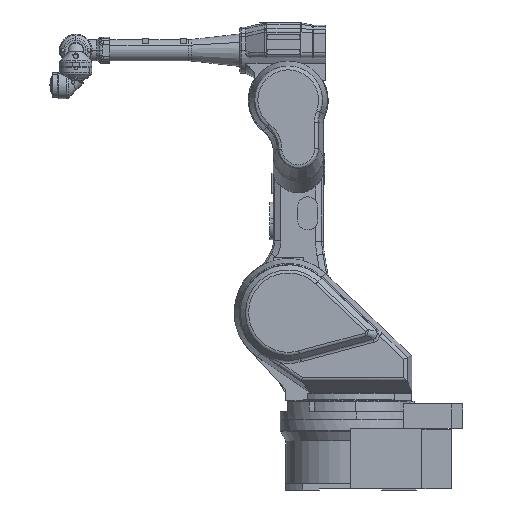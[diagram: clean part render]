
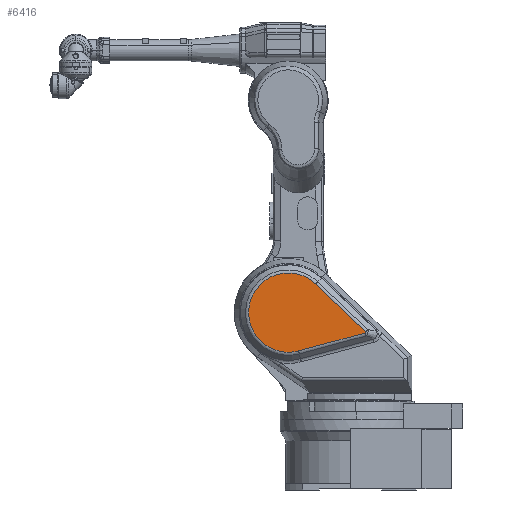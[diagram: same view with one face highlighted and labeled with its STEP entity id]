
A CAD part, left-side view. The second image highlights one B-rep face of the part: STEP entity #6416.
In plain terms, the highlighted planar face has unit normal (-1, 0, 0).
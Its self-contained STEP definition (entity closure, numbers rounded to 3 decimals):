
#6316=CARTESIAN_POINT('Vertex',(-307.,-59.814,-76.285)) ;
#6332=CARTESIAN_POINT('Vertex',(-307.,140.652,114.748)) ;
#6335=CARTESIAN_POINT('Line Origine',(-307.,40.419,19.231)) ;
#6363=CARTESIAN_POINT('Vertex',(-307.,208.997,-153.111)) ;
#6366=CARTESIAN_POINT('Axis2P3D Location',(-307.,250.,0.)) ;
#6378=CARTESIAN_POINT('Axis2P3D Location',(-307.,250.,0.)) ;
#6383=CARTESIAN_POINT('Line Origine',(-307.,75.254,-117.294)) ;
#6387=CARTESIAN_POINT('Vertex',(-307.,-58.489,-81.478)) ;
#6391=CARTESIAN_POINT('Control Point',(-307.,-58.489,-81.478)) ;
#6392=CARTESIAN_POINT('Control Point',(-307.,-58.83,-81.386)) ;
#6393=CARTESIAN_POINT('Control Point',(-307.,-59.154,-81.277)) ;
#6394=CARTESIAN_POINT('Control Point',(-307.,-59.456,-81.15)) ;
#6395=CARTESIAN_POINT('Control Point',(-307.,-60.002,-80.864)) ;
#6396=CARTESIAN_POINT('Control Point',(-307.,-60.441,-80.513)) ;
#6397=CARTESIAN_POINT('Control Point',(-307.,-60.628,-80.325)) ;
#6398=CARTESIAN_POINT('Control Point',(-307.,-60.937,-79.926)) ;
#6399=CARTESIAN_POINT('Control Point',(-307.,-61.117,-79.48)) ;
#6400=CARTESIAN_POINT('Control Point',(-307.,-61.173,-79.25)) ;
#6401=CARTESIAN_POINT('Control Point',(-307.,-61.217,-78.773)) ;
#6402=CARTESIAN_POINT('Control Point',(-307.,-61.127,-78.276)) ;
#6403=CARTESIAN_POINT('Control Point',(-307.,-61.049,-78.024)) ;
#6404=CARTESIAN_POINT('Control Point',(-307.,-60.828,-77.516)) ;
#6405=CARTESIAN_POINT('Control Point',(-307.,-60.487,-77.014)) ;
#6406=CARTESIAN_POINT('Control Point',(-307.,-60.288,-76.765)) ;
#6407=CARTESIAN_POINT('Control Point',(-307.,-60.062,-76.522)) ;
#6408=CARTESIAN_POINT('Control Point',(-307.,-59.814,-76.285)) ;
#6336=DIRECTION('Vector Direction',(0.,-0.724,-0.69)) ;
#6367=DIRECTION('Axis2P3D Direction',(-1.,0.,0.)) ;
#6379=DIRECTION('Axis2P3D Direction',(-1.,0.,0.)) ;
#6380=DIRECTION('Axis2P3D XDirection',(0.,-1.,0.)) ;
#6384=DIRECTION('Vector Direction',(0.,0.966,-0.259)) ;
#6368=AXIS2_PLACEMENT_3D('Circle Axis2P3D',#6366,#6367,$) ;
#6381=AXIS2_PLACEMENT_3D('Plane Axis2P3D',#6378,#6379,#6380) ;
#6411=ORIENTED_EDGE('',*,*,#6389,.T.) ;
#6412=ORIENTED_EDGE('',*,*,#6409,.T.) ;
#6413=ORIENTED_EDGE('',*,*,#6339,.T.) ;
#6414=ORIENTED_EDGE('',*,*,#6370,.T.) ;
#6337=VECTOR('Line Direction',#6336,1.) ;
#6385=VECTOR('Line Direction',#6384,1.) ;
#6416=ADVANCED_FACE('\X2\FF7BFF70FF8CFF6AFF7D\X0\.23',(#6415),#6382,.T.) ;
#6390=B_SPLINE_CURVE_WITH_KNOTS('',5,(#6391,#6392,#6393,#6394,#6395,#6396,#6397,#6398,#6399,#6400,#6401,#6402,#6403,#6404,#6405,#6406,#6407,#6408),.UNSPECIFIED.,.F.,.U.,(6,3,3,3,3,6),(40.992,48.747,56.251,63.629,71.055,78.583),.UNSPECIFIED.) ;
#6369=CIRCLE('generated circle',#6368,158.506) ;
#6339=EDGE_CURVE('',#6317,#6333,#6338,.F.) ;
#6370=EDGE_CURVE('',#6333,#6364,#6369,.T.) ;
#6389=EDGE_CURVE('',#6364,#6388,#6386,.F.) ;
#6409=EDGE_CURVE('',#6388,#6317,#6390,.T.) ;
#6410=EDGE_LOOP('',(#6411,#6412,#6413,#6414)) ;
#6415=FACE_OUTER_BOUND('',#6410,.T.) ;
#6338=LINE('Line',#6335,#6337) ;
#6386=LINE('Line',#6383,#6385) ;
#6382=PLANE('',#6381) ;
#6317=VERTEX_POINT('',#6316) ;
#6333=VERTEX_POINT('',#6332) ;
#6364=VERTEX_POINT('',#6363) ;
#6388=VERTEX_POINT('',#6387) ;
